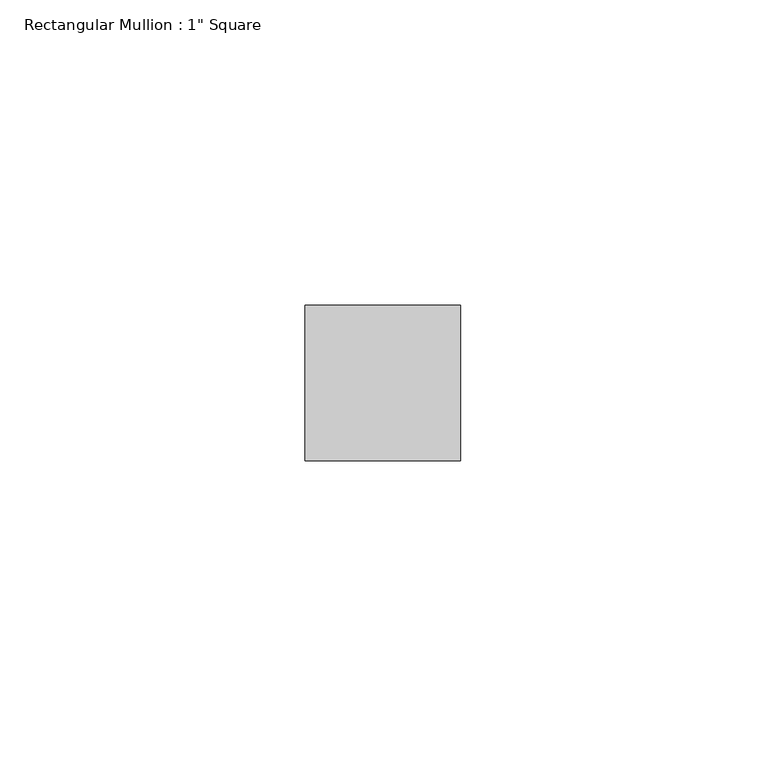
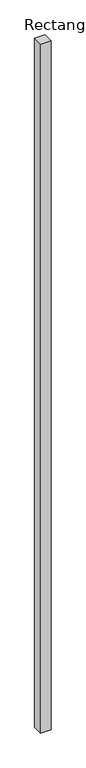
"""IFC4 building model written with IfcOpenShell, lengths in millimetres: member geometry."""

from ifc_helpers import new_model, si_unit, frame, origin, place, context, project, spatial, polyline, outline, extrude, source, transform, mapped, element, save


def member_97883678(model_context):
    return source(origin(), model_context, "Body", "SweptSolid", [
        extrude(outline(polyline([(12.7, 12.7), (12.7, -12.7), (-12.7, -12.7), (-12.7, 12.7), (12.7, 12.7)])), frame((0.0, 0.0, -1788.0635055), z_axis=(0.0, 0.0, 1.0), x_axis=(1.0, 0.0, 0.0)), (0.0, 0.0, 1.0), 1788.0635055),
    ])


if __name__ == "__main__":
    model = new_model("IFC4")
    model_context = context("Model", 3, world=origin())
    ifc_project = project(units=[si_unit("LENGTHUNIT", "METRE", prefix="MILLI")], contexts=[model_context])
    site = spatial("IfcSite", under=ifc_project)
    building = spatial("IfcBuilding", under=site)
    placement = place(None, origin())
    member_shape = member_97883678(model_context)
    element("IfcMember", 1, ObjectType="Rectangular Mullion : 1\" Square", at=placement, inside=building, context=model_context, shape_type="MappedRepresentation", body=[
        mapped(member_shape, transform((0.0, 0.0, 0.0), x_axis=(1.0, 0.0, 0.0), y_axis=(0.0, 1.0, 0.0), z_axis=(0.0, 0.0, 1.0))),
    ])
    save(model, "model.ifc")
